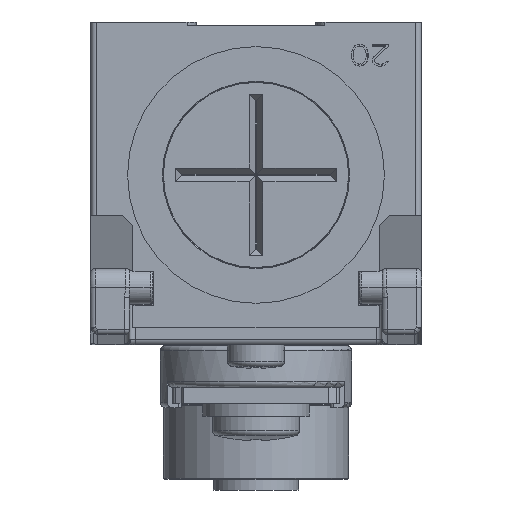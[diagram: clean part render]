
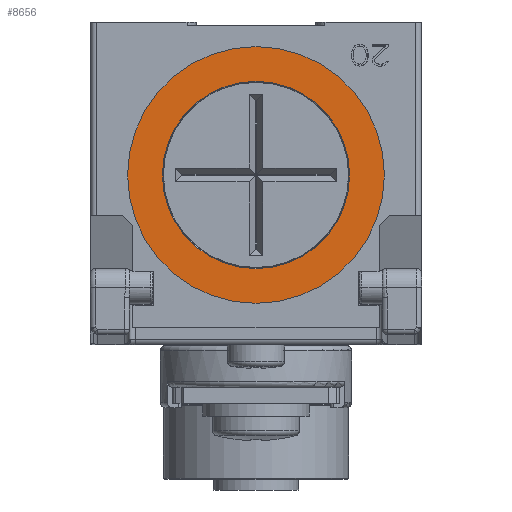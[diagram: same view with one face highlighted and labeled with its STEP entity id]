
A CAD part, front view. The second image highlights one B-rep face of the part: STEP entity #8656.
In plain terms, the highlighted planar face has unit normal (0, -1, 0) as drawn and (-1, 0, 0) by its records, which use the part's own axes.
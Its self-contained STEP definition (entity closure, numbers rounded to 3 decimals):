
#1353=FACE_BOUND('',#13564,.T.);
#1354=FACE_BOUND('',#13565,.T.);
#8656=ADVANCED_FACE('',(#1353,#1354),#10620,.F.);
#10620=PLANE('',#37872);
#13564=EDGE_LOOP('',(#15664,#15665));
#13565=EDGE_LOOP('',(#15666,#15667));
#15664=ORIENTED_EDGE('',*,*,#30537,.F.);
#15665=ORIENTED_EDGE('',*,*,#30535,.T.);
#15666=ORIENTED_EDGE('',*,*,#30538,.T.);
#15667=ORIENTED_EDGE('',*,*,#30539,.T.);
#26824=VERTEX_POINT('',#52545);
#26825=VERTEX_POINT('',#52547);
#26826=VERTEX_POINT('',#52553);
#26827=VERTEX_POINT('',#52554);
#30535=EDGE_CURVE('',#26825,#26824,#36119,.T.);
#30537=EDGE_CURVE('',#26825,#26824,#36120,.T.);
#30538=EDGE_CURVE('',#26826,#26827,#36121,.T.);
#30539=EDGE_CURVE('',#26827,#26826,#36122,.T.);
#36119=CIRCLE('',#37866,12.);
#36120=CIRCLE('',#37868,12.);
#36121=CIRCLE('',#37870,8.75);
#36122=CIRCLE('',#37871,8.75);
#37866=AXIS2_PLACEMENT_3D('',#52546,#41623,#41624);
#37868=AXIS2_PLACEMENT_3D('',#52550,#41628,#41629);
#37870=AXIS2_PLACEMENT_3D('',#52552,#41632,#41633);
#37871=AXIS2_PLACEMENT_3D('',#52555,#41634,#41635);
#37872=AXIS2_PLACEMENT_3D('',#52556,#41636,#41637);
#41623=DIRECTION('',(-1.,0.,0.));
#41624=DIRECTION('',(0.,1.,0.));
#41628=DIRECTION('',(1.,0.,0.));
#41629=DIRECTION('',(0.,1.,0.));
#41632=DIRECTION('',(1.,0.,0.));
#41633=DIRECTION('',(0.,-1.,0.));
#41634=DIRECTION('',(1.,0.,0.));
#41635=DIRECTION('',(0.,1.,0.));
#41636=DIRECTION('',(1.,0.,0.));
#41637=DIRECTION('',(0.,-1.,0.));
#52545=CARTESIAN_POINT('',(0.,-12.,0.));
#52546=CARTESIAN_POINT('',(0.,0.,0.));
#52547=CARTESIAN_POINT('',(0.,12.,0.));
#52550=CARTESIAN_POINT('',(0.,0.,0.));
#52552=CARTESIAN_POINT('',(0.,0.,0.));
#52553=CARTESIAN_POINT('',(0.,-8.75,0.));
#52554=CARTESIAN_POINT('',(0.,8.75,0.));
#52555=CARTESIAN_POINT('',(0.,0.,0.));
#52556=CARTESIAN_POINT('',(0.,0.,0.));
